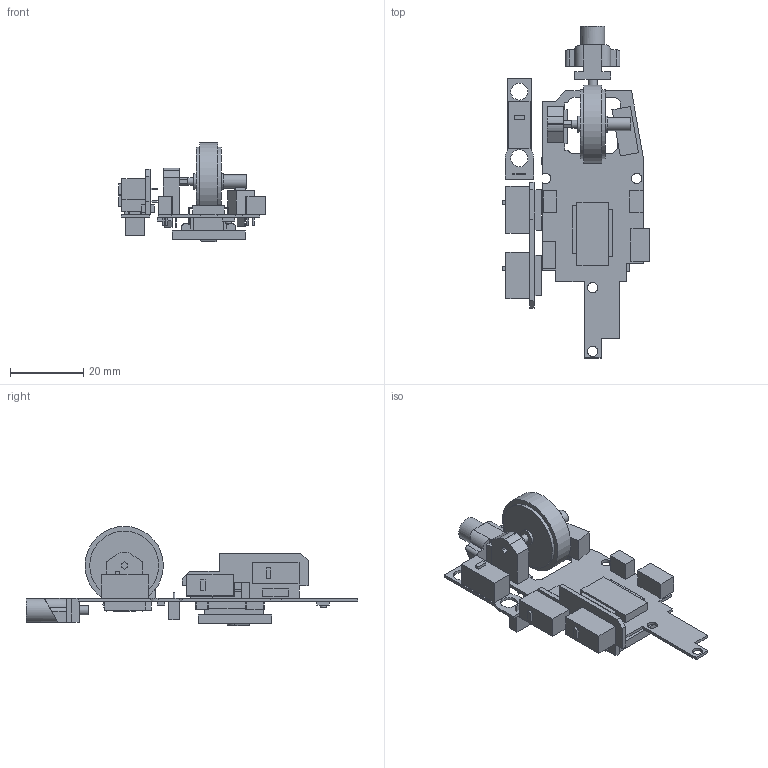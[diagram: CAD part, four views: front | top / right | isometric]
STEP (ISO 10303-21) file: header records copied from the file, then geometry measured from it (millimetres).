
FILE_DESCRIPTION(/* description */ (''),/* implementation_level */ '2;1');
FILE_NAME(/* name */ 'op18kv2pcb_251210.step',/* time_stamp */ '2025-12-10T02:16:40+09:00',/* author */ (''),/* organization */ (''),/* preprocessor_version */ 'ST-DEVELOPER v20.1',/* originating_system */ 'Autodesk Translation Framework v14.21.0.0',/* authorisation */ '');
FILE_SCHEMA (('AUTOMOTIVE_DESIGN { 1 0 10303 214 3 1 1 }'));
Length unit declared in the file: millimetre
Products named in the file (9): op18kv2pcb; lens; around lens; sensor; main_pcb; wheel; main_switch; side_switch; bush
Assembly tree (8 placements, depth 2):
  op18kv2pcb
    lens
    around lens
    sensor
    main_pcb
    wheel
    main_switch
    side_switch
    bush
Bounding box: 40 x 90.6 x 27.07 mm (x, y, z)
Volume: 9664.2 mm3; surface area: 12103.6 mm2
Topology: 21 solids, 21 shells, 366 faces, 874 edges, 580 vertices
Faces by surface type: plane 318, cylinder 46, cone 2
Full cylindrical faces by diameter (mm): 1.7 x1, 2.15 x1, 2.5 x1, 2.8 x3, 3.6 x1, 4.3 x2, 4.65 x2, 6.5 x1, 16.5 x2, 18.8 x2, 21.35 x1
Entity records: 10837 total; most frequent: CARTESIAN_POINT 1838, ORIENTED_EDGE 1748, DIRECTION 1740, EDGE_CURVE 874, LINE 776, VECTOR 776, VERTEX_POINT 580, AXIS2_PLACEMENT_3D 482
